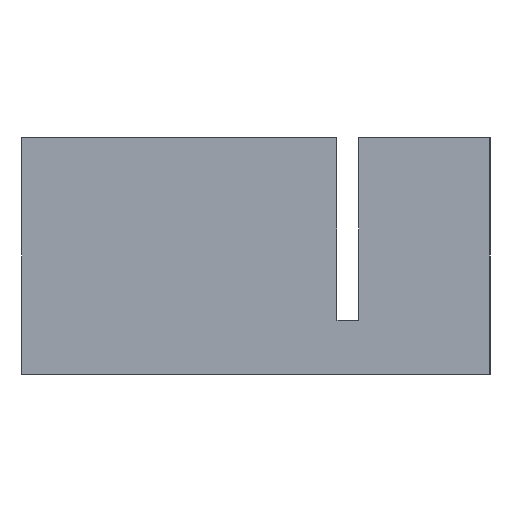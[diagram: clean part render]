
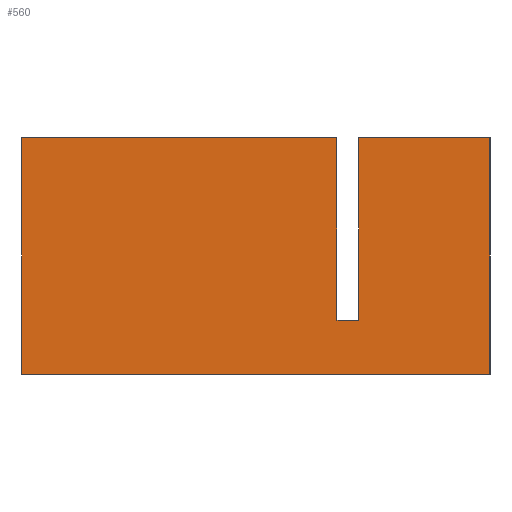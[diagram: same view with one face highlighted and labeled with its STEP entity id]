
A CAD part, left-side view. The second image highlights one B-rep face of the part: STEP entity #560.
In plain terms, the highlighted planar face has unit normal (-1, 0, 0).
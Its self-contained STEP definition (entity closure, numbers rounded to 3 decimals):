
#40=FACE_OUTER_BOUND('',#68,.T.);
#68=EDGE_LOOP('',(#443,#444,#445,#446,#447,#448,#449,#450));
#96=LINE('',#785,#170);
#114=LINE('',#821,#188);
#119=LINE('',#831,#193);
#121=LINE('',#834,#195);
#124=LINE('',#840,#198);
#136=LINE('',#869,#210);
#137=LINE('',#871,#211);
#138=LINE('',#872,#212);
#170=VECTOR('',#634,10.);
#188=VECTOR('',#662,10.);
#193=VECTOR('',#669,10.);
#195=VECTOR('',#673,10.);
#198=VECTOR('',#678,10.);
#210=VECTOR('',#708,10.);
#211=VECTOR('',#709,10.);
#212=VECTOR('',#710,10.);
#244=VERTEX_POINT('',#782);
#245=VERTEX_POINT('',#784);
#258=VERTEX_POINT('',#820);
#260=VERTEX_POINT('',#825);
#262=VERTEX_POINT('',#829);
#264=VERTEX_POINT('',#838);
#272=VERTEX_POINT('',#868);
#273=VERTEX_POINT('',#870);
#296=EDGE_CURVE('',#244,#245,#96,.T.);
#314=EDGE_CURVE('',#245,#258,#114,.T.);
#319=EDGE_CURVE('',#260,#262,#119,.T.);
#321=EDGE_CURVE('',#258,#262,#121,.T.);
#324=EDGE_CURVE('',#244,#264,#124,.T.);
#338=EDGE_CURVE('',#260,#272,#136,.T.);
#339=EDGE_CURVE('',#273,#264,#137,.T.);
#340=EDGE_CURVE('',#272,#273,#138,.T.);
#443=ORIENTED_EDGE('',*,*,#338,.F.);
#444=ORIENTED_EDGE('',*,*,#319,.T.);
#445=ORIENTED_EDGE('',*,*,#321,.F.);
#446=ORIENTED_EDGE('',*,*,#314,.F.);
#447=ORIENTED_EDGE('',*,*,#296,.F.);
#448=ORIENTED_EDGE('',*,*,#324,.T.);
#449=ORIENTED_EDGE('',*,*,#339,.F.);
#450=ORIENTED_EDGE('',*,*,#340,.F.);
#533=PLANE('',#604);
#560=ADVANCED_FACE('',(#40),#533,.T.);
#604=AXIS2_PLACEMENT_3D('',#867,#706,#707);
#634=DIRECTION('',(0.,-1.,0.));
#662=DIRECTION('',(0.,0.,1.));
#669=DIRECTION('',(0.,0.,1.));
#673=DIRECTION('',(0.,-1.,0.));
#678=DIRECTION('',(0.,0.,1.));
#706=DIRECTION('center_axis',(-1.,0.,0.));
#707=DIRECTION('ref_axis',(0.,-1.,0.));
#708=DIRECTION('',(0.,1.,0.));
#709=DIRECTION('',(0.,-1.,0.));
#710=DIRECTION('',(0.,0.,1.));
#782=CARTESIAN_POINT('',(-19.4,-4.5,3.));
#784=CARTESIAN_POINT('',(-19.4,-5.7,3.));
#785=CARTESIAN_POINT('',(-19.4,-5.7,3.));
#820=CARTESIAN_POINT('',(-19.4,-5.7,13.15));
#821=CARTESIAN_POINT('',(-19.4,-5.7,0.));
#825=CARTESIAN_POINT('',(-19.4,-13.,0.));
#829=CARTESIAN_POINT('',(-19.4,-13.,13.15));
#831=CARTESIAN_POINT('',(-19.4,-13.,0.));
#834=CARTESIAN_POINT('',(-19.4,-13.,13.15));
#838=CARTESIAN_POINT('',(-19.4,-4.5,13.15));
#840=CARTESIAN_POINT('',(-19.4,-4.5,0.));
#867=CARTESIAN_POINT('Origin',(-19.4,13.,0.));
#868=CARTESIAN_POINT('',(-19.4,13.,0.));
#869=CARTESIAN_POINT('',(-19.4,-13.,0.));
#870=CARTESIAN_POINT('',(-19.4,13.,13.15));
#871=CARTESIAN_POINT('',(-19.4,-13.,13.15));
#872=CARTESIAN_POINT('',(-19.4,13.,0.));
